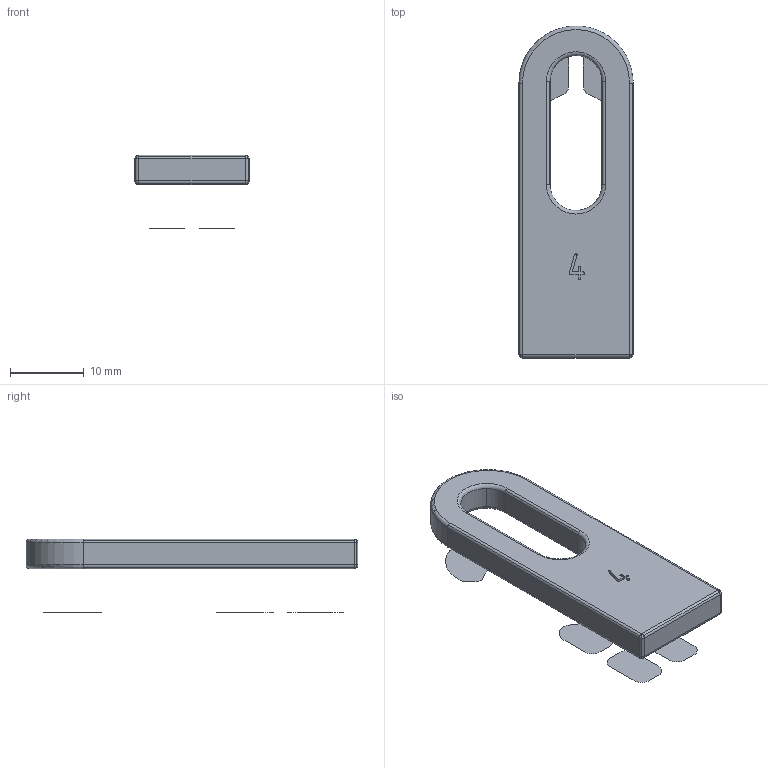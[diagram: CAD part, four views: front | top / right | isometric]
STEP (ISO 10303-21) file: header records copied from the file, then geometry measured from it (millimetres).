
FILE_DESCRIPTION(('STEP AP214'),'1');
FILE_NAME('BF-20240124-cad-shim1_4mm_light-02cbr.stp','2024-01-24T18:02:17',(' '),(' '),'Spatial InterOp 3D',' ',' ');
FILE_SCHEMA(('AUTOMOTIVE_DESIGN { 1 0 10303 214 1 1 1 1 }'));
Length unit declared in the file: metre
Products named in the file (1): Volumenkörper
Bounding box: 15.5 x 44.99 x 10 mm (x, y, z)
Volume: 1859.6 mm3; surface area: 1996.1 mm2
Topology: 1 solids, 7 shells, 234 faces, 619 edges, 392 vertices
Faces by surface type: cylinder 120, plane 46, torus 42, extrusion 18, sphere 8
Entity records: 7374 total; most frequent: CARTESIAN_POINT 1401, DIRECTION 1347, ORIENTED_EDGE 1170, EDGE_CURVE 611, AXIS2_PLACEMENT_3D 534, VERTEX_POINT 390, CIRCLE 314, VECTOR 279
